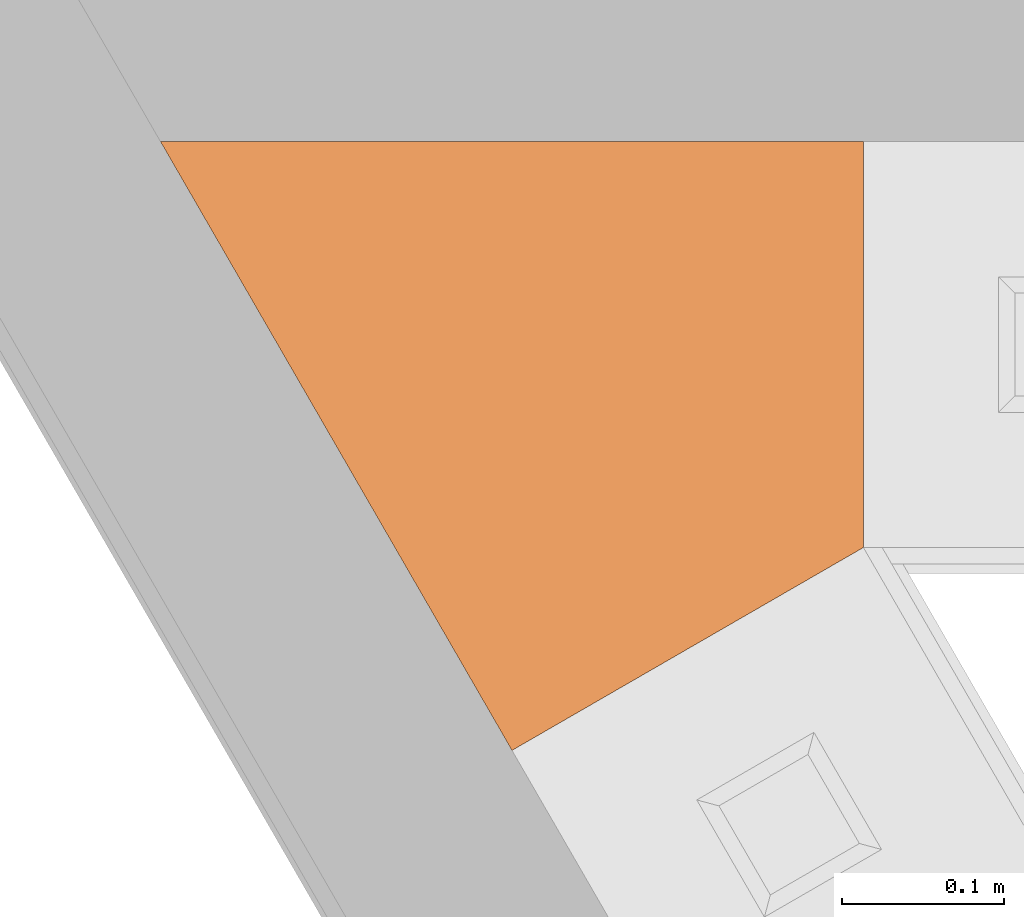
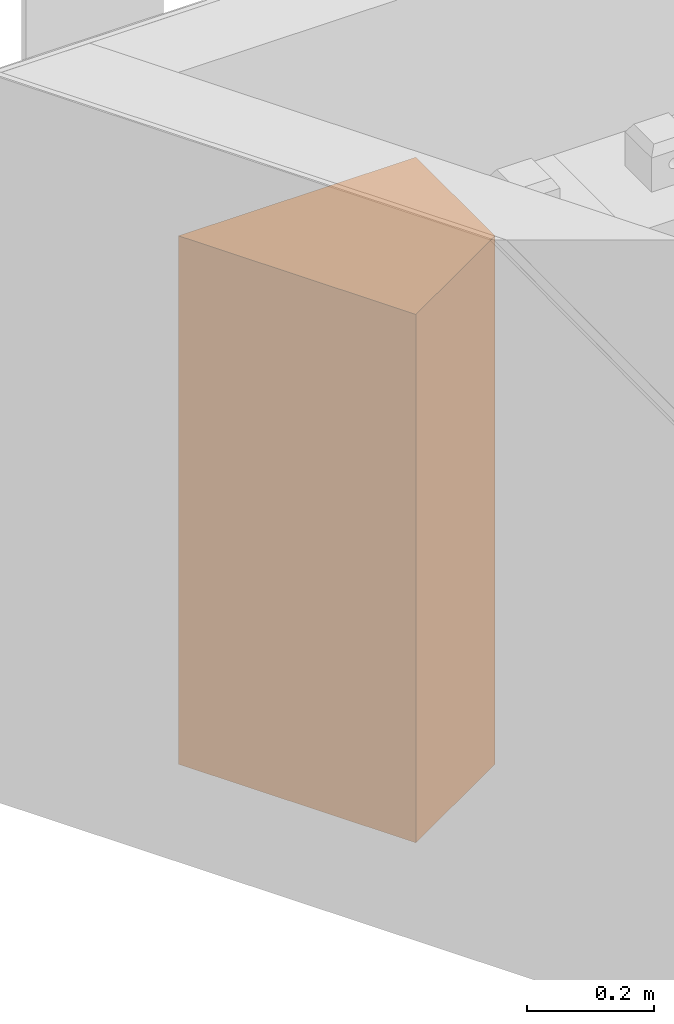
# One storey, part 2 of 2: 1 proxy.
"""IFC4 building model written with IfcOpenShell, lengths in centimetres."""

from ifc_helpers import new_model, entity, si_unit, converted_unit, direction, frame, origin, place, context, subcontext, project, spatial, indexed_curve, outline, extrude, source, transform, mapped, material, type_object, type_shapes, element, save


model = new_model("IFC4")

# Units and contexts
model_context = context("Model", 3, precision=0.001, world=origin(), true_north=direction((0.0, 1.0)))
body_context = subcontext(model_context, "Body", "Model", "MODEL_VIEW")
ifc_project = project(units=[si_unit("LENGTHUNIT", "METRE", prefix="CENTI"), si_unit("AREAUNIT", "SQUARE_METRE"), si_unit("VOLUMEUNIT", "CUBIC_METRE"), converted_unit("PLANEANGLEUNIT", "DEGREE", entity("IfcPlaneAngleMeasure", 0.017453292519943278), si_unit("PLANEANGLEUNIT", "RADIAN"), dimensions=[0, 0, 0, 0, 0, 0, 0])], contexts=[model_context])

# Site, building, storey
site_placement = place(None, origin())
site = spatial("IfcSite", under=ifc_project, at=site_placement, Name="Default", CompositionType="ELEMENT")
building_placement = place(site_placement, origin())
building = spatial("IfcBuilding", under=site, at=building_placement, CompositionType="ELEMENT")
storey_placement = place(building_placement, frame((0.0, 0.0, -12.0)))
storey = spatial("IfcBuildingStorey", under=building, at=storey_placement, Name="L00__ABOVE Slab", CompositionType="ELEMENT", Elevation=-12.000000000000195)

# Proxy
ifc_material = material(Name="_STRUCTURE__Wood Solid")
building_element_proxy_type = type_object("IfcBuildingElementProxyType", Name="Generic Models : Generic Models 1 : Generic Models 1", PredefinedType="NOTDEFINED", material=ifc_material)
shared_shape = source(origin(), body_context, "Body", "SweptSolid", [
    extrude(outline(indexed_curve([(-27.063293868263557, -15.624999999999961), (16.237976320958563, -15.624999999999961), (16.237976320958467, 9.375000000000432), (-5.41265877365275, 21.87500000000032), (-27.063293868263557, -15.624999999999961)], self_intersect=False)), frame((1966.9114803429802, 848.0802064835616, 4.499999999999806), z_axis=(0.0, 0.0, 1.0), x_axis=(0.49999999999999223, -0.8660254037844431, 0.0)), (0.0, 0.0, 1.0), 101.83333333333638),
])
type_shapes(building_element_proxy_type, [shared_shape])
proxy_placement = place(storey_placement, frame((0.0, 0.0, 12.0)))
element("IfcBuildingElementProxy", 1, at=proxy_placement, inside=storey, type_object=building_element_proxy_type, material=ifc_material, Name="Generic Models : Generic Models 1 : Generic Models 1", PredefinedType="NOTDEFINED", context=body_context, shape_type="MappedRepresentation", body=[
    mapped(shared_shape, transform((0.0, 0.0, 0.0), scale=1.0)),
])

save(model, "model.ifc")
